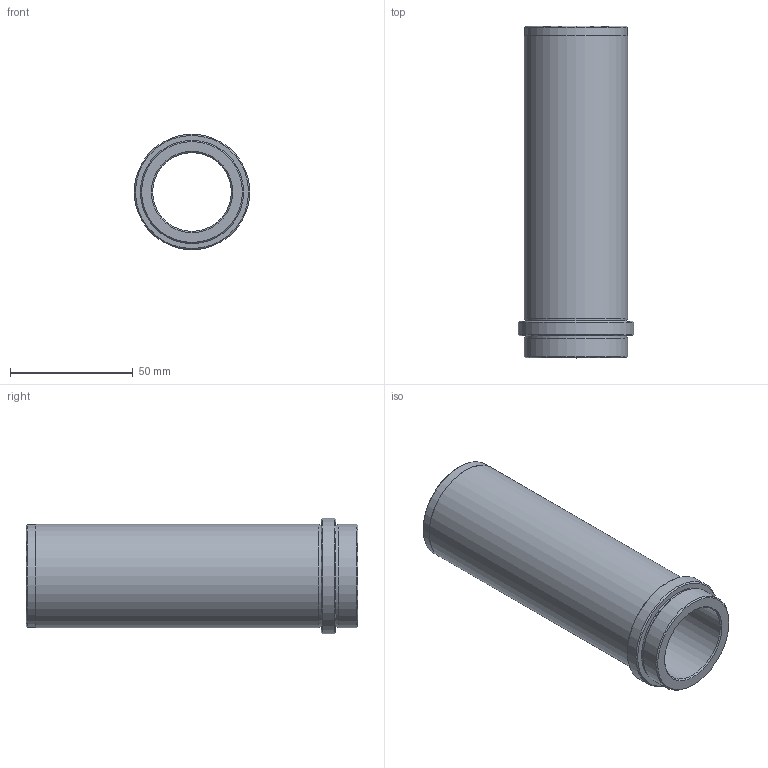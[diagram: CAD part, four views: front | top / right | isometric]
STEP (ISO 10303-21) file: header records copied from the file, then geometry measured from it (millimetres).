
FILE_DESCRIPTION( ( 'STEP AP203' ), '1' );
FILE_NAME( 'D:/Cuma/24 03 2009/D21/D21_32X126.step', '2002-12-31T22:10:17', ( ' ' ), ( ' ' ), 'XStep 1.0', ' ', ' ' );
FILE_SCHEMA( ( 'CONFIG_CONTROL_DESIGN' ) );
Length unit declared in the file: metre
Products named in the file (1): 1
Bounding box: 47 x 135 x 47 mm (x, y, z)
Volume: 80371.6 mm3; surface area: 33243.7 mm2
Topology: 1 solids, 1 shells, 20 faces, 33 edges, 20 vertices
Faces by surface type: cylinder 7, plane 7, cone 6
Full cylindrical faces by diameter (mm): 32 x1, 41.5 x2, 41.9 x1, 42 x2, 47 x1
Entity records: 453 total; most frequent: DIRECTION 82, CARTESIAN_POINT 61, AXIS2_PLACEMENT_3D 41, EDGE_LOOP 40, ORIENTED_EDGE 40, FACE_OUTER_BOUND 27, ADVANCED_FACE 20, EDGE_CURVE 20
